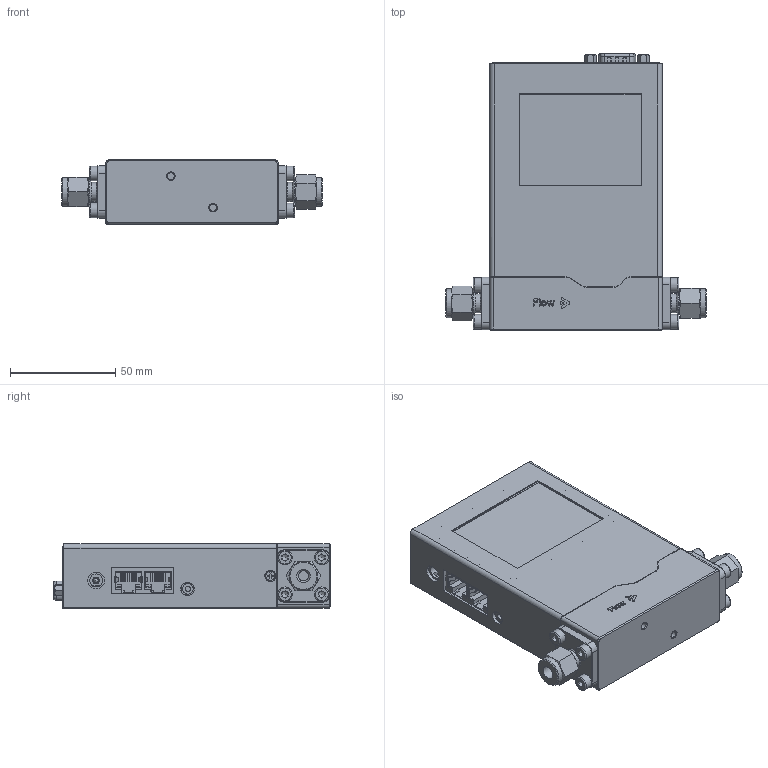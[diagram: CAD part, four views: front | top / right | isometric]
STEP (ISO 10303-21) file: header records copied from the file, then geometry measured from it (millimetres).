
FILE_DESCRIPTION(/* description */ ('STEP AP214'),/* implementation_level */ '2;1');
FILE_NAME(/* name */ '3D Model_PS500 Series.stp',/* time_stamp */ '2025-11-17T23:16:28+07:00',/* author */ ('User'),/* organization */ (''),/* preprocessor_version */ 'ST-DEVELOPER v20',/* originating_system */ 'Autodesk Inventor 2025',/* authorisation */ '');
FILE_SCHEMA (('AUTOMOTIVE_DESIGN { 1 0 10303 214 3 1 1 }'));
Products named in the file (1): S500-(10sccm-20slm)-1-4卡套-4-20mA-RS485-带屏幕.
STEP
Bounding box: 124 x 131.3 x 30.55 mm (x, y, z)
Volume: 151440.8 mm3; surface area: 84434.2 mm2
Topology: 40 solids, 43 shells, 3277 faces, 8607 edges, 5587 vertices
Faces by surface type: plane 2098, cylinder 647, bspline 353, cone 131, torus 39, sphere 9
Full cylindrical faces by diameter (mm): 0.36 x3, 1 x1, 1.05 x18, 1.6 x4, 1.8 x1, 2 x2, 2.05 x4, 2.261 x2, 2.5 x10, 2.6 x2, 2.8 x6, 2.9 x5, 3 x1, 3.05 x2, 3.2 x7, 3.3 x12, 3.4 x1, 3.5 x7, 4 x9, 4.2 x8, 4.4 x9, 4.55 x1, 4.8 x5, 4.95 x3, 5 x3, 5.96 x3, 6 x5, 6.2 x1, 6.4 x4, 6.5 x2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
Entity records: 109777 total; most frequent: CARTESIAN_POINT 26644, ORIENTED_EDGE 17160, DIRECTION 15339, EDGE_CURVE 8580, LINE 6101, VECTOR 6101, VERTEX_POINT 5587, AXIS2_PLACEMENT_3D 4619
